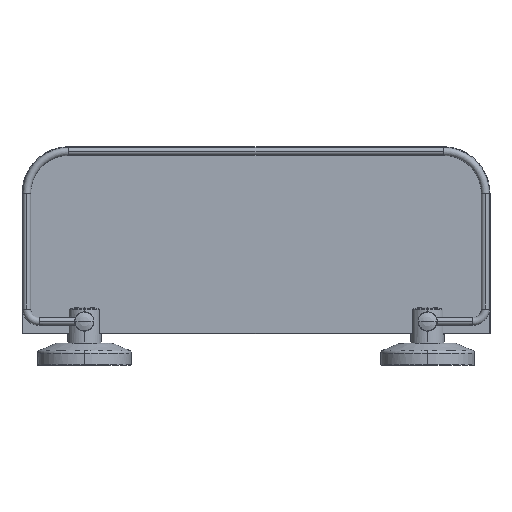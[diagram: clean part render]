
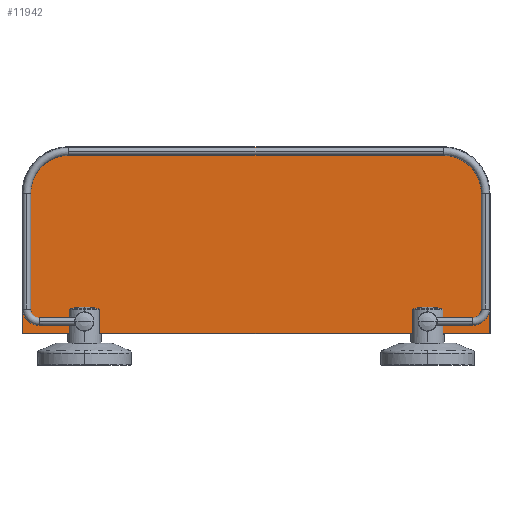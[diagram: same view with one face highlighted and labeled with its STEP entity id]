
A CAD part, top view. The second image highlights one B-rep face of the part: STEP entity #11942.
In plain terms, the highlighted planar face has unit normal (0, 0, 1).
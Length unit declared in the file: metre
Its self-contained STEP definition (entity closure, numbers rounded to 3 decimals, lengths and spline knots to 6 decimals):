
#11942=ADVANCED_FACE('',(#11948),#11943,.F.);
#11943=PLANE('',#11944);
#11944=AXIS2_PLACEMENT_3D('',#11945,#11946,#11947);
#11945=CARTESIAN_POINT('',(-0.11,0.0061,0.004));
#11946=DIRECTION('',(0.0,0.0,-1.0));
#11947=DIRECTION('',(1.0,0.0,0.0));
#11948=FACE_OUTER_BOUND('',#11949,.T.);
#11949=EDGE_LOOP('',(#11950,#11960,#11968,#11976,#11985,#11993));
#11950=ORIENTED_EDGE('',*,*,#11951,.T.);
#11951=EDGE_CURVE('',#11952,#11954,#11956,.T.);
#11952=VERTEX_POINT('',#11953);
#11953=CARTESIAN_POINT('',(-0.2595,0.0961,0.004));
#11954=VERTEX_POINT('',#11955);
#11955=CARTESIAN_POINT('',(-0.2595,0.0066,0.004));
#11956=LINE('',#11957,#11958);
#11957=CARTESIAN_POINT('',(-0.2595,0.0061,0.004));
#11958=VECTOR('',#11959,1.0);
#11959=DIRECTION('',(0.0,-1.0,0.0));
#11960=ORIENTED_EDGE('',*,*,#11961,.T.);
#11961=EDGE_CURVE('',#11954,#11962,#11964,.T.);
#11962=VERTEX_POINT('',#11963);
#11963=CARTESIAN_POINT('',(0.0395,0.0066,0.004));
#11964=LINE('',#11965,#11966);
#11965=CARTESIAN_POINT('',(-0.11,0.0066,0.004));
#11966=VECTOR('',#11967,1.0);
#11967=DIRECTION('',(1.0,0.0,0.0));
#11968=ORIENTED_EDGE('',*,*,#11969,.T.);
#11969=EDGE_CURVE('',#11962,#11970,#11972,.T.);
#11970=VERTEX_POINT('',#11971);
#11971=CARTESIAN_POINT('',(0.0395,0.0961,0.004));
#11972=LINE('',#11973,#11974);
#11973=CARTESIAN_POINT('',(0.0395,0.0061,0.004));
#11974=VECTOR('',#11975,1.0);
#11975=DIRECTION('',(0.0,1.0,0.0));
#11976=ORIENTED_EDGE('',*,*,#11977,.T.);
#11977=EDGE_CURVE('',#11970,#11978,#11980,.F.);
#11978=VERTEX_POINT('',#11979);
#11979=CARTESIAN_POINT('',(0.01,0.1256,0.004));
#11980=CIRCLE('',#11981,0.0295);
#11981=AXIS2_PLACEMENT_3D('',#11982,#11983,#11984);
#11982=CARTESIAN_POINT('',(0.01,0.0961,0.004));
#11983=DIRECTION('',(0.0,0.0,-1.0));
#11984=DIRECTION('',(-1.0,0.0,0.0));
#11985=ORIENTED_EDGE('',*,*,#11986,.T.);
#11986=EDGE_CURVE('',#11978,#11987,#11989,.T.);
#11987=VERTEX_POINT('',#11988);
#11988=CARTESIAN_POINT('',(-0.23,0.1256,0.004));
#11989=LINE('',#11990,#11991);
#11990=CARTESIAN_POINT('',(-0.11,0.1256,0.004));
#11991=VECTOR('',#11992,1.0);
#11992=DIRECTION('',(-1.0,0.0,0.0));
#11993=ORIENTED_EDGE('',*,*,#11994,.T.);
#11994=EDGE_CURVE('',#11987,#11952,#11995,.F.);
#11995=CIRCLE('',#11996,0.0295);
#11996=AXIS2_PLACEMENT_3D('',#11997,#11998,#11999);
#11997=CARTESIAN_POINT('',(-0.23,0.0961,0.004));
#11998=DIRECTION('',(0.0,0.0,-1.0));
#11999=DIRECTION('',(-1.0,0.0,0.0));
